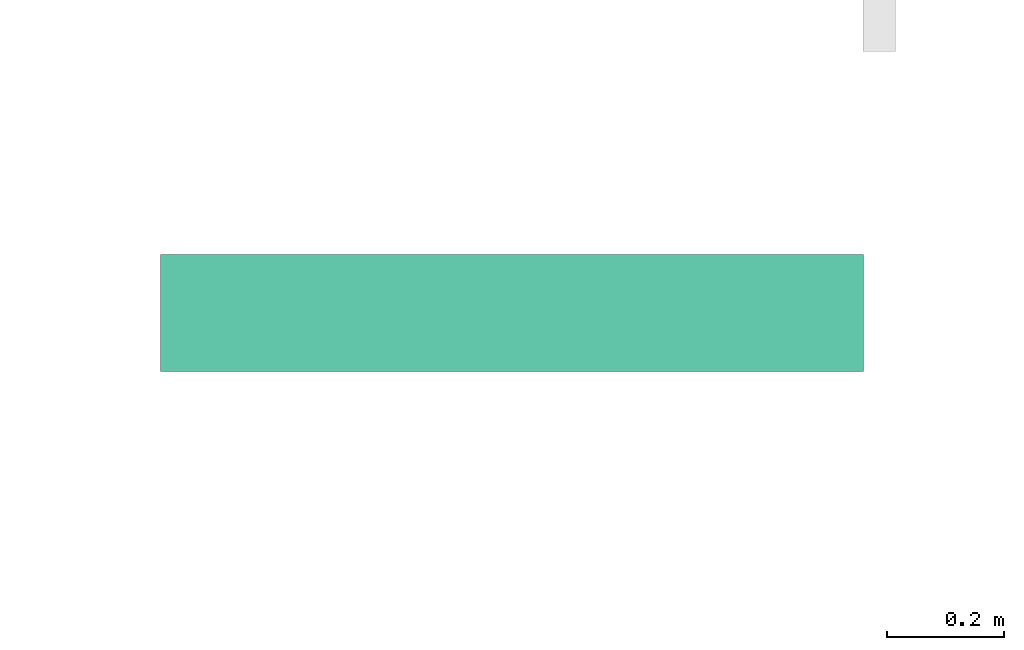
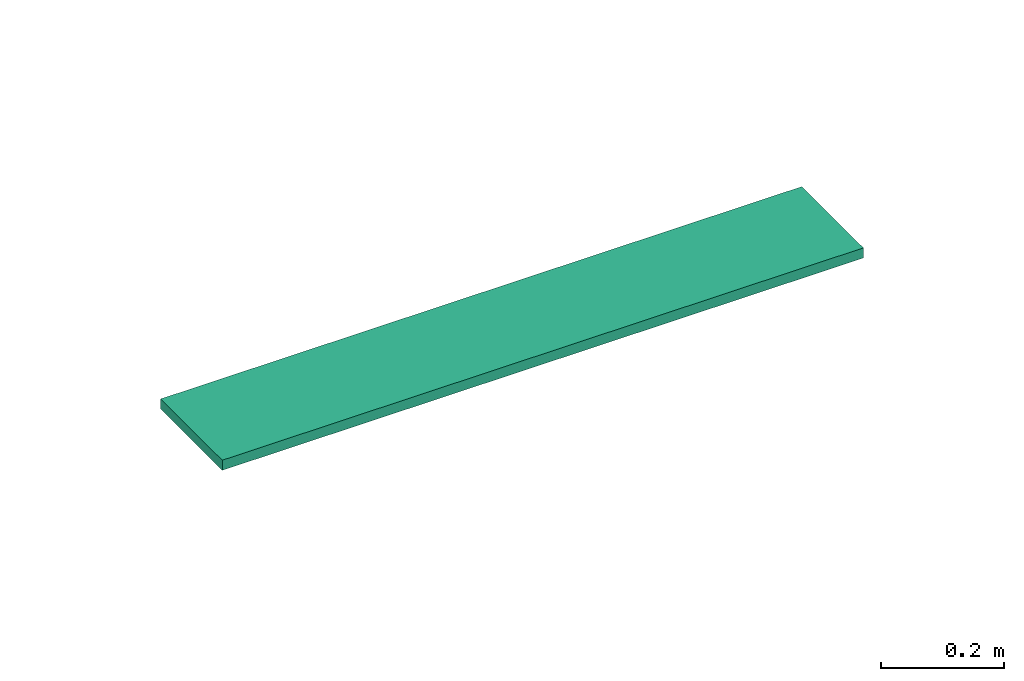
# One storey, part 8 of 153: 1 flow terminal.
"""IFC2X3 building model written with IfcOpenShell, lengths in metres."""

from ifc_helpers import new_model, entity, si_unit, converted_unit, derived_unit, direction, frame, origin, origin_2d_with_axis, place, context, subcontext, project, spatial, rectangle, extrude, source, transform, mapped, type_object, type_shapes, element, save


model = new_model("IFC2X3")

# Units and contexts
model_context = context("Model", 3, precision=1e-05, world=origin(), true_north=direction((6.12303176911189e-17, 1.0)))
body_context = subcontext(model_context, "Body", "Model", "MODEL_VIEW")
ifc_project = project(units=[si_unit("LENGTHUNIT", "METRE"), si_unit("AREAUNIT", "SQUARE_METRE"), si_unit("VOLUMEUNIT", "CUBIC_METRE"), converted_unit("PLANEANGLEUNIT", "DEGREE", entity("IfcRatioMeasure", 0.0174532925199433), si_unit("PLANEANGLEUNIT", "RADIAN"), dimensions=[0, 0, 0, 0, 0, 0, 0]), si_unit("MASSUNIT", "GRAM", prefix="KILO"), derived_unit("MASSDENSITYUNIT", [(si_unit("MASSUNIT", "GRAM", prefix="KILO"), 1), (si_unit("LENGTHUNIT", "METRE"), -3)]), si_unit("TIMEUNIT", "SECOND"), si_unit("FREQUENCYUNIT", "HERTZ"), si_unit("THERMODYNAMICTEMPERATUREUNIT", "DEGREE_CELSIUS"), derived_unit("THERMALTRANSMITTANCEUNIT", [(si_unit("MASSUNIT", "GRAM", prefix="KILO"), 1), (si_unit("THERMODYNAMICTEMPERATUREUNIT", "KELVIN"), -1), (si_unit("TIMEUNIT", "SECOND"), -3)]), derived_unit("VOLUMETRICFLOWRATEUNIT", [(si_unit("LENGTHUNIT", "METRE"), 3), (si_unit("TIMEUNIT", "SECOND"), -1)]), si_unit("ELECTRICCURRENTUNIT", "AMPERE"), si_unit("ELECTRICVOLTAGEUNIT", "VOLT"), si_unit("POWERUNIT", "WATT"), si_unit("FORCEUNIT", "NEWTON"), si_unit("ILLUMINANCEUNIT", "LUX"), si_unit("LUMINOUSFLUXUNIT", "LUMEN"), si_unit("LUMINOUSINTENSITYUNIT", "CANDELA"), derived_unit("USERDEFINED", [(si_unit("MASSUNIT", "GRAM", prefix="KILO"), -1), (si_unit("LENGTHUNIT", "METRE"), -2), (si_unit("TIMEUNIT", "SECOND"), 3), (si_unit("LUMINOUSFLUXUNIT", "LUMEN"), 1)]), derived_unit("LINEARVELOCITYUNIT", [(si_unit("LENGTHUNIT", "METRE"), 1), (si_unit("TIMEUNIT", "SECOND"), -1)]), si_unit("PRESSUREUNIT", "PASCAL"), derived_unit("USERDEFINED", [(si_unit("LENGTHUNIT", "METRE"), -2), (si_unit("MASSUNIT", "GRAM", prefix="KILO"), 1), (si_unit("TIMEUNIT", "SECOND"), -2)])], contexts=[model_context])

# Site, building, storey
site_placement = place(None, origin())
site = spatial("IfcSite", under=ifc_project, at=site_placement, Name="Default", CompositionType="ELEMENT")
building_placement = place(site_placement, origin())
building = spatial("IfcBuilding", under=site, at=building_placement, CompositionType="ELEMENT")
storey_placement = place(building_placement, frame((0.0, 0.0, -4.62)))
storey = spatial("IfcBuildingStorey", under=building, at=storey_placement, Name="S02", CompositionType="ELEMENT", Elevation=-4.62)

# Flow terminal
light_fixture_type = type_object("IfcLightFixtureType", Name="B_Réglete étanche", PredefinedType="NOTDEFINED")
shared_shape = source(origin(), body_context, "Body", "SweptSolid", [
    extrude(rectangle(XDim=0.199999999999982, YDim=1.2, at=origin_2d_with_axis()), frame((0.0, 0.0, 0.0), z_axis=(0.0, 0.0, 1.0), x_axis=(0.0, 1.0, 0.0)), (0.0, 0.0, 1.0), 0.02),
])
type_shapes(light_fixture_type, [shared_shape])
flow_terminal_placement = place(storey_placement, frame((39.2527256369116, -185.864296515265, 4.345), z_axis=(0.0, 0.0, -1.0), x_axis=(-1.0, 0.0, 0.0)))
element("IfcFlowTerminal", 1, at=flow_terminal_placement, inside=storey, type_object=light_fixture_type, Name="II_PREF_Type B Réglette étanche:B_Réglete étanche", ObjectType="II_PREF_Type B Réglette étanche:B_Réglete étanche", context=body_context, shape_type="MappedRepresentation", body=[
    mapped(shared_shape, transform((0.0, 0.0, 0.0), scale=1.0)),
])

save(model, "model.ifc")
